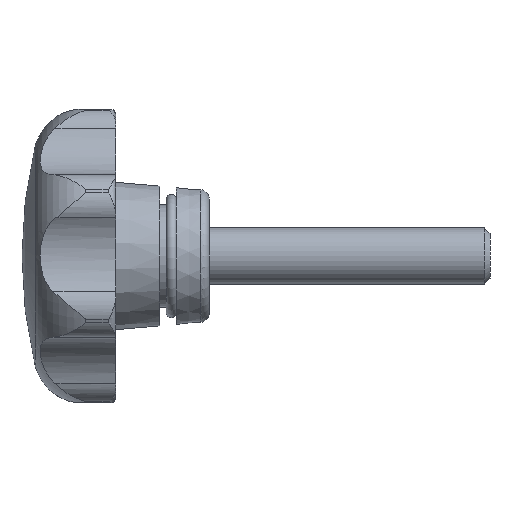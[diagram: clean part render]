
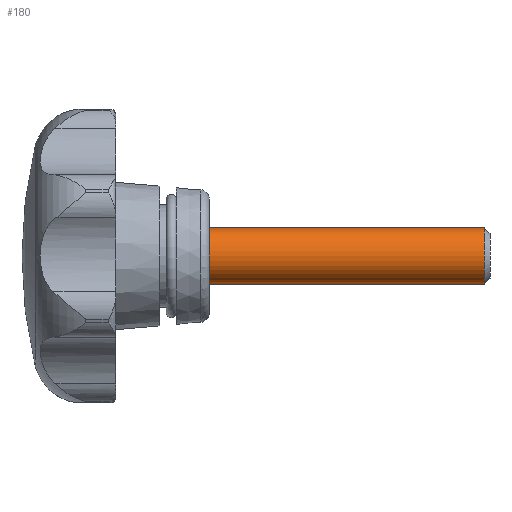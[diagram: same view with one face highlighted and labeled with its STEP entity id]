
A CAD part, left-side view. The second image highlights one B-rep face of the part: STEP entity #180.
In plain terms, the highlighted cylindrical face has radius 3 mm (diameter 6 mm), a full revolution.
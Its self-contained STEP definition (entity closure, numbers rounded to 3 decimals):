
#180 = ADVANCED_FACE( '', ( #345, #346 ), #347, .T. );
#345 = FACE_OUTER_BOUND( '', #675, .T. );
#346 = FACE_OUTER_BOUND( '', #676, .T. );
#347 = CYLINDRICAL_SURFACE( '', #677, 3. );
#675 = EDGE_LOOP( '', ( #1036 ) );
#676 = EDGE_LOOP( '', ( #1037 ) );
#677 = AXIS2_PLACEMENT_3D( '', #1038, #1039, #1040 );
#1036 = ORIENTED_EDGE( '', *, *, #2051, .F. );
#1037 = ORIENTED_EDGE( '', *, *, #2052, .T. );
#1038 = CARTESIAN_POINT( '', ( 0., -30., 0. ) );
#1039 = DIRECTION( '', ( 0., 1., 0. ) );
#1040 = DIRECTION( '', ( 0., 0., -1. ) );
#2051 = EDGE_CURVE( '', #2398, #2398, #2399, .T. );
#2052 = EDGE_CURVE( '', #2400, #2400, #2401, .T. );
#2398 = VERTEX_POINT( '', #3057 );
#2399 = CIRCLE( '', #3058, 3. );
#2400 = VERTEX_POINT( '', #3059 );
#2401 = CIRCLE( '', #3060, 3. );
#3057 = CARTESIAN_POINT( '', ( 0., -29.387, -3. ) );
#3058 = AXIS2_PLACEMENT_3D( '', #4699, #4700, #4701 );
#3059 = CARTESIAN_POINT( '', ( 0., 0., -3. ) );
#3060 = AXIS2_PLACEMENT_3D( '', #4702, #4703, #4704 );
#4699 = CARTESIAN_POINT( '', ( 0., -29.387, 0. ) );
#4700 = DIRECTION( '', ( 0., -1., 0. ) );
#4701 = DIRECTION( '', ( 0., 0., -1. ) );
#4702 = CARTESIAN_POINT( '', ( 0., 0., 0. ) );
#4703 = DIRECTION( '', ( 0., -1., 0. ) );
#4704 = DIRECTION( '', ( 0., 0., -1. ) );
